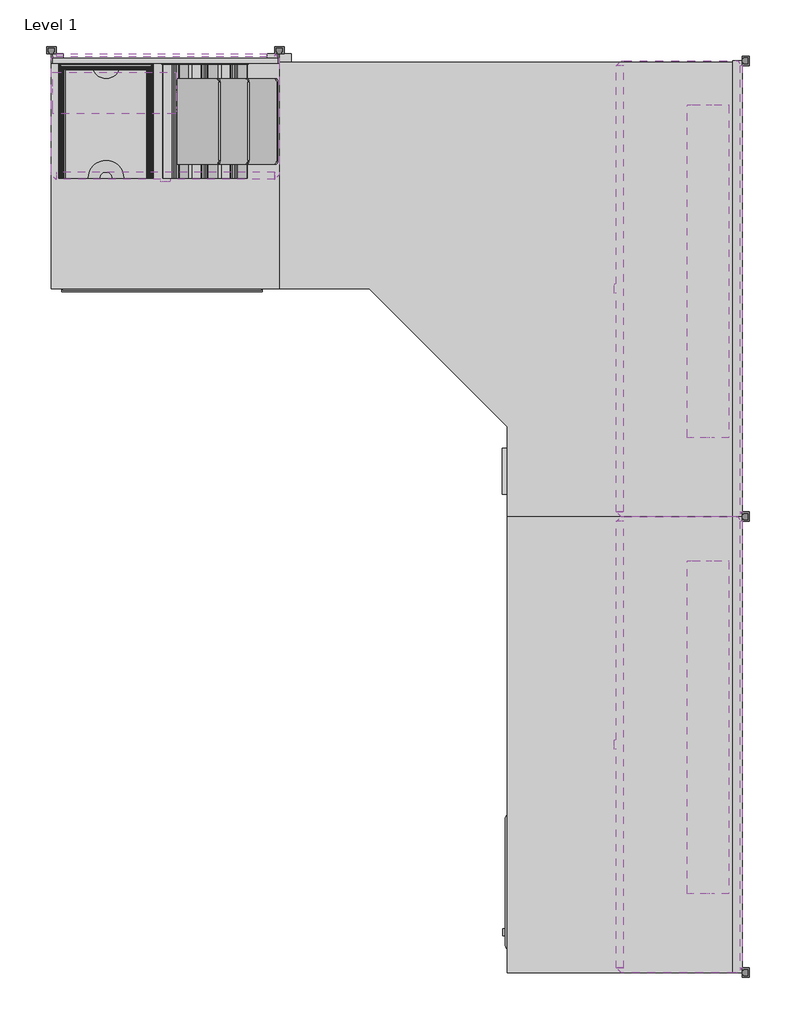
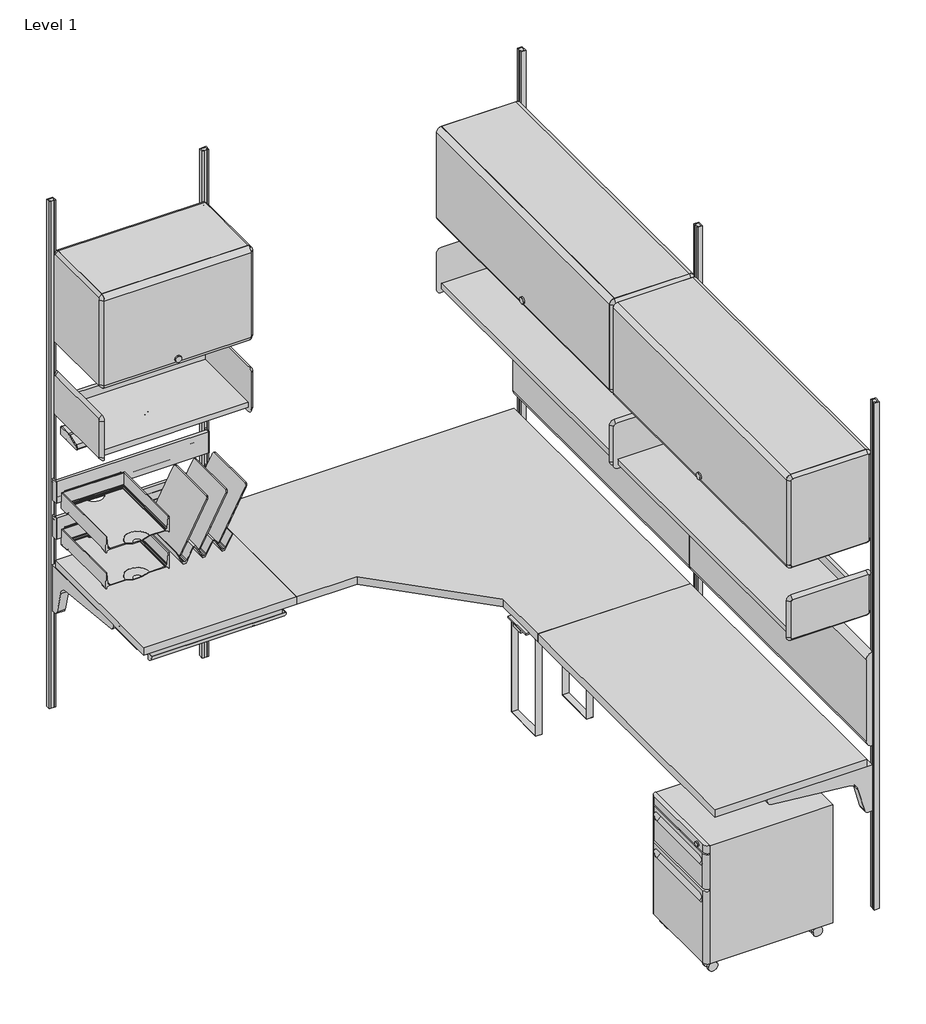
# One storey, incomplete: 24 furniture elements, 3 light fixtures.
"""IFC4 building model written with IfcOpenShell, lengths in millimetres."""

from ifc_helpers import new_model, si_unit, origin, place, context, project, spatial, transform, mapped, element, save
from components import furniture_84c54a78, furniture_d54c757f, furniture_75fc3fe0, furniture_a2665887, furniture_baef4f76, furniture_d9179111, furniture_33cd207f, furniture_cb78dd66, furniture_6a59721d, furniture_2520e590, furniture_ae017f2a, furniture_083a197f, furniture_d4c6b201, furniture_db9437f5, furniture_fea97cc0, furniture_ea425779, vertical_a4187a12, light_fixture_3e001c73, light_fixture_05727ef9

model = new_model("IFC4")

# Units and contexts
model_context = context("Model", 3, world=origin())
ifc_project = project(units=[si_unit("LENGTHUNIT", "METRE", prefix="MILLI")], contexts=[model_context])

# Site, building, storey
site = spatial("IfcSite", under=ifc_project)
building = spatial("IfcBuilding", under=site)
storey = spatial("IfcBuildingStorey", under=building, Name="Level 1", Elevation=0.0)

# Furniture
placement = place(None, origin())
furniture_shape = furniture_84c54a78(model_context)
element("IfcFurniture", 1, ObjectType="HermanMiller_QuadrantFiling_G5111_MobilePedestal : 21-1/2\"H x 20\"D x 15\"W BF", at=placement, inside=storey, context=model_context, shape_type="MappedRepresentation", body=[
    mapped(furniture_shape, transform((1476.976977, -2233.7268, 0.0), x_axis=(0.0, -1.0, 0.0), y_axis=(1.0, 0.0, 0.0), z_axis=(0.0, 0.0, 1.0))),
])
furniture_2_shape = furniture_d54c757f(model_context)
element("IfcFurniture", 2, ObjectType="HermanMiller_ThrivePortfolio_Y5010_PencilDrawer : 2\"H x 16\"D x 21\"W", at=placement, inside=storey, context=model_context, shape_type="MappedRepresentation", body=[
    mapped(furniture_2_shape, transform((295.96334, -448.71132, 0.0), x_axis=(1.0, 0.0, 0.0), y_axis=(0.0, 1.0, 0.0), z_axis=(0.0, 0.0, 1.0))),
])
furniture_3_shape = furniture_75fc3fe0(model_context)
element("IfcFurniture", 3, ObjectType="HermanMiller_ThrivePortfolio_Y7218_DiagonalTray : 8 1/2\"H x 12\"D x 13\"W", at=placement, inside=storey, context=model_context, shape_type="MappedRepresentation", body=[
    mapped(furniture_3_shape, transform((410.816817, -198.47052, 0.0), x_axis=(1.0, 0.0, 0.0), y_axis=(0.0, 1.0, 0.0), z_axis=(0.0, 0.0, 1.0))),
])
furniture_4_shape = furniture_a2665887(model_context)
element("IfcFurniture", 4, ObjectType="HermanMiller_ThrivePortfolio_Y7216_PaperTray : 3\"H x 12\"D x 10\"W", at=placement, inside=storey, context=model_context, shape_type="MappedRepresentation", body=[
    mapped(furniture_4_shape, transform((146.2024, -198.47052, 0.0), x_axis=(1.0, 0.0, 0.0), y_axis=(0.0, 1.0, 0.0), z_axis=(0.0, 0.0, 1.0))),
])
furniture_5_shape = furniture_baef4f76(model_context)
element("IfcFurniture", 5, ObjectType="HermanMiller_ThrivePortfolio_Y7216_PaperTray : 3\"H x 12\"D x 10\"W", at=placement, inside=storey, context=model_context, shape_type="MappedRepresentation", body=[
    mapped(furniture_5_shape, transform((146.2024, -198.47052, 0.0), x_axis=(1.0, 0.0, 0.0), y_axis=(0.0, 1.0, 0.0), z_axis=(0.0, 0.0, 1.0))),
])
furniture_6_shape = furniture_d9179111(model_context)
element("IfcFurniture", 6, ObjectType="HermanMiller_ActionOffice_A3220_B-StyleStorageDisplay : Shelf 13\"D x 48\"W", at=placement, inside=storey, context=model_context, shape_type="MappedRepresentation", body=[
    mapped(furniture_6_shape, transform((1666.875, -771.6420045, 0.0), x_axis=(0.0, -1.0, 0.0), y_axis=(1.0, 0.0, 0.0), z_axis=(0.0, 0.0, 1.0))),
])
element("IfcFurniture", 7, ObjectType="HermanMiller_ActionOffice_A3220_B-StyleStorageDisplay : Shelf 13\"D x 48\"W", at=placement, inside=storey, context=model_context, shape_type="MappedRepresentation", body=[
    mapped(furniture_6_shape, transform((1666.875, -1990.8420045, 0.0), x_axis=(0.0, -1.0, 0.0), y_axis=(1.0, 0.0, 0.0), z_axis=(0.0, 0.0, 1.0))),
])
furniture_7_shape = furniture_33cd207f(model_context)
element("IfcFurniture", 8, ObjectType="HermanMiller_ActionOffice_A3352_B-StyleFlipperDoorUnit : 15 1/2\"H x 13\"D x 48\"W", at=placement, inside=storey, context=model_context, shape_type="MappedRepresentation", body=[
    mapped(furniture_7_shape, transform((1666.875, -647.7, 0.0), x_axis=(0.0, -1.0, 0.0), y_axis=(1.0, 0.0, 0.0), z_axis=(0.0, 0.0, 1.0))),
])
element("IfcFurniture", 9, ObjectType="HermanMiller_ActionOffice_A3352_B-StyleFlipperDoorUnit : 15 1/2\"H x 13\"D x 48\"W", at=placement, inside=storey, context=model_context, shape_type="MappedRepresentation", body=[
    mapped(furniture_7_shape, transform((1666.875, -1866.9, 0.0), x_axis=(0.0, -1.0, 0.0), y_axis=(1.0, 0.0, 0.0), z_axis=(0.0, 0.0, 1.0))),
])
furniture_8_shape = furniture_cb78dd66(model_context)
element("IfcFurniture", 10, ObjectType="HermanMiller_ActionOffice_A3410_B-StyleTackboard : 16\"H x 48\"W", at=placement, inside=storey, context=model_context, shape_type="MappedRepresentation", body=[
    mapped(furniture_8_shape, transform((1835.15, -647.7, 0.0), x_axis=(0.0, -1.0, 0.0), y_axis=(1.0, 0.0, 0.0), z_axis=(0.0, 0.0, 1.0))),
])
element("IfcFurniture", 11, ObjectType="HermanMiller_ActionOffice_A3410_B-StyleTackboard : 16\"H x 48\"W", at=placement, inside=storey, context=model_context, shape_type="MappedRepresentation", body=[
    mapped(furniture_8_shape, transform((1835.15, -1866.9, 0.0), x_axis=(0.0, -1.0, 0.0), y_axis=(1.0, 0.0, 0.0), z_axis=(0.0, 0.0, 1.0))),
])
furniture_9_shape = furniture_6a59721d(model_context)
element("IfcFurniture", 12, ObjectType="HermanMiller_ActionOffice_A3610_ToolBar : 4\"H x 24\"W", at=placement, inside=storey, context=model_context, shape_type="MappedRepresentation", body=[
    mapped(furniture_9_shape, transform((304.8, -31.7499996, 0.0), x_axis=(1.0, 0.0, 0.0), y_axis=(0.0, 1.0, 0.0), z_axis=(0.0, 0.0, 1.0))),
])
furniture_10_shape = furniture_2520e590(model_context)
element("IfcFurniture", 13, ObjectType="HermanMiller_ActionOffice_A3610_ToolBar : 4\"H x 24\"W", at=placement, inside=storey, context=model_context, shape_type="MappedRepresentation", body=[
    mapped(furniture_10_shape, transform((304.8, -31.7499996, 0.0), x_axis=(1.0, 0.0, 0.0), y_axis=(0.0, 1.0, 0.0), z_axis=(0.0, 0.0, 1.0))),
])
furniture_11_shape = furniture_ae017f2a(model_context)
element("IfcFurniture", 14, ObjectType="HermanMiller_ActionOffice_A3220_B-StyleStorageDisplay : Shelf 13\"D x 24\"W", at=placement, inside=storey, context=model_context, shape_type="MappedRepresentation", body=[
    mapped(furniture_11_shape, transform((428.7420045, -200.025, 0.0), x_axis=(1.0, 0.0, 0.0), y_axis=(0.0, 1.0, 0.0), z_axis=(0.0, 0.0, 1.0))),
])
furniture_12_shape = furniture_083a197f(model_context)
element("IfcFurniture", 15, ObjectType="HermanMiller_ActionOffice_A2310_Sq-EdgeRectangularWorkSurface : 24\"D x 48\"W", at=placement, inside=storey, context=model_context, shape_type="MappedRepresentation", body=[
    mapped(furniture_12_shape, transform((1533.525, -1866.9, 0.0), x_axis=(0.0, -1.0, 0.0), y_axis=(1.0, 0.0, 0.0), z_axis=(0.0, 0.0, 1.0))),
])
furniture_13_shape = furniture_d4c6b201(model_context)
element("IfcFurniture", 16, ObjectType="HermanMiller_ActionOffice_A2310_Sq-EdgeRectangularWorkSurface : 24\"D x 24\"W", at=placement, inside=storey, context=model_context, shape_type="MappedRepresentation", body=[
    mapped(furniture_13_shape, transform((304.8, -333.375, 0.0), x_axis=(1.0, 0.0, 0.0), y_axis=(0.0, 1.0, 0.0), z_axis=(0.0, 0.0, 1.0))),
])
furniture_14_shape = furniture_db9437f5(model_context)
element("IfcFurniture", 17, ObjectType="HermanMiller_ActionOffice_A2332_Sq-EdgeCornerWorkSurface : 24\"D x 48\"W", at=placement, inside=storey, context=model_context, shape_type="MappedRepresentation", body=[
    mapped(furniture_14_shape, transform((1063.625, -781.05, 0.0), x_axis=(0.0, -1.0, 0.0), y_axis=(1.0, 0.0, 0.0), z_axis=(0.0, 0.0, 1.0))),
])
furniture_15_shape = furniture_fea97cc0(model_context)
element("IfcFurniture", 18, ObjectType="HermanMiller_ActionOffice_A3352_B-StyleFlipperDoorUnit : 15 1/2\"H x 13\"D x 24\"W", at=placement, inside=storey, context=model_context, shape_type="MappedRepresentation", body=[
    mapped(furniture_15_shape, transform((304.8, -200.025, 0.0), x_axis=(1.0, 0.0, 0.0), y_axis=(0.0, 1.0, 0.0), z_axis=(0.0, 0.0, 1.0))),
])
furniture_16_shape = furniture_ea425779(model_context)
element("IfcFurniture", 19, ObjectType="HermanMiller_ActionOffice_AO213_WallStrip : 84\"H", at=placement, inside=storey, context=model_context, shape_type="MappedRepresentation", body=[
    mapped(furniture_16_shape, transform((1866.9, -1257.3, 0.0), x_axis=(0.0, -1.0, 0.0), y_axis=(1.0, 0.0, 0.0), z_axis=(0.0, 0.0, 1.0))),
])
element("IfcFurniture", 20, ObjectType="HermanMiller_ActionOffice_AO213_WallStrip : 84\"H", at=placement, inside=storey, context=model_context, shape_type="MappedRepresentation", body=[
    mapped(furniture_16_shape, transform((1866.9, -38.1, 0.0), x_axis=(0.0, -1.0, 0.0), y_axis=(1.0, 0.0, 0.0), z_axis=(0.0, 0.0, 1.0))),
])
element("IfcFurniture", 21, ObjectType="HermanMiller_ActionOffice_AO213_WallStrip : 84\"H", at=placement, inside=storey, context=model_context, shape_type="MappedRepresentation", body=[
    mapped(furniture_16_shape, transform((609.6, 0.0, 0.0), x_axis=(1.0, 0.0, 0.0), y_axis=(0.0, 1.0, 0.0), z_axis=(0.0, 0.0, 1.0))),
])
element("IfcFurniture", 22, ObjectType="HermanMiller_ActionOffice_AO213_WallStrip : 84\"H", at=placement, inside=storey, context=model_context, shape_type="MappedRepresentation", body=[
    mapped(furniture_16_shape, transform((0.0, 0.0, 0.0), x_axis=(1.0, 0.0, 0.0), y_axis=(0.0, 1.0, 0.0), z_axis=(0.0, 0.0, 1.0))),
])
element("IfcFurniture", 23, ObjectType="HermanMiller_ActionOffice_AO213_WallStrip : 84\"H", at=placement, inside=storey, context=model_context, shape_type="MappedRepresentation", body=[
    mapped(furniture_16_shape, transform((1866.9, -2476.5, 0.0), x_axis=(0.0, -1.0, 0.0), y_axis=(1.0, 0.0, 0.0), z_axis=(0.0, 0.0, 1.0))),
])
vertical_shape = vertical_a4187a12(model_context)
element("IfcFurniture", 24, ObjectType="HermanMiller_ThrivePortfolio_Y7813_CPUHolder : Vertical", at=placement, inside=storey, context=model_context, shape_type="MappedRepresentation", body=[
    mapped(vertical_shape, transform((1345.7616667, -1135.4199094, 0.0), x_axis=(0.0, 1.0, 0.0), y_axis=(-1.0, 0.0, 0.0), z_axis=(0.0, 0.0, 1.0))),
])

# Light fixtures
light_fixture_shape = light_fixture_3e001c73(model_context)
element("IfcLightFixture", 25, ObjectType="HermanMiller_SupplementalProducts_G6136_UtilityTaskLight : AO Etho Canvas 42W", at=placement, inside=storey, context=model_context, shape_type="MappedRepresentation", body=[
    mapped(light_fixture_shape, transform((1755.775, -601.218, 0.0), x_axis=(0.0, -1.0, 0.0), y_axis=(1.0, 0.0, 0.0), z_axis=(0.0, 0.0, 1.0))),
])
element("IfcLightFixture", 26, ObjectType="HermanMiller_SupplementalProducts_G6136_UtilityTaskLight : AO Etho Canvas 42W", at=placement, inside=storey, context=model_context, shape_type="MappedRepresentation", body=[
    mapped(light_fixture_shape, transform((1755.775, -1820.418, 0.0), x_axis=(0.0, -1.0, 0.0), y_axis=(1.0, 0.0, 0.0), z_axis=(0.0, 0.0, 1.0))),
])
light_fixture_2_shape = light_fixture_05727ef9(model_context)
element("IfcLightFixture", 27, ObjectType="HermanMiller_SupplementalProducts_G6136_UtilityTaskLight : AO Etho Canvas 24W", at=placement, inside=storey, context=model_context, shape_type="MappedRepresentation", body=[
    mapped(light_fixture_2_shape, transform((168.529, -123.825, 0.0), x_axis=(1.0, 0.0, 0.0), y_axis=(0.0, 1.0, 0.0), z_axis=(0.0, 0.0, 1.0))),
])

save(model, "model.ifc")
